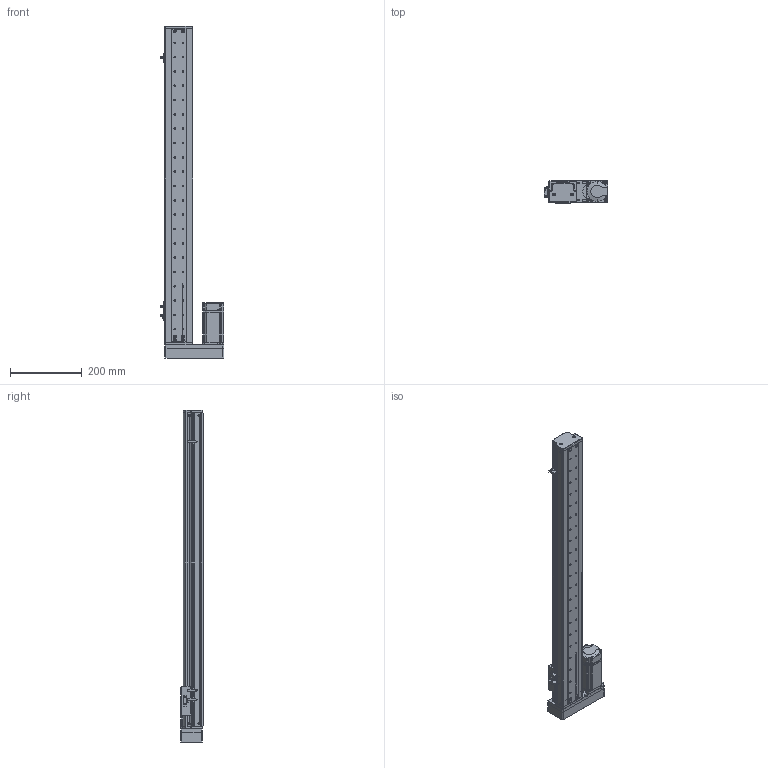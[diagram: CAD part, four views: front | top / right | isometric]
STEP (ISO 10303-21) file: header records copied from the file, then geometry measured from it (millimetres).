
FILE_DESCRIPTION (( 'STEP AP214' ), '1' );
FILE_NAME ('KSD75S-S720-ML-CM.STEP', '2019-10-18T07:04:50', ( '微软用户' ), ( '微软中国' ), 'SwSTEP 2.0', 'SolidWorks 2014', '' );
FILE_SCHEMA (( 'AUTOMOTIVE_DESIGN' ));
Length unit declared in the file: millimetre
Products named in the file (13): 75遵耀郪耜啣-720俴最; 75遵賑雄釱; MGW15H賑寢720; 720俴最; KSD75S-S720-ML-CM; MHMD042G1CA_2_03; 75宽模组保护罩左右折; 75宽马达安装板连板左右折丝杆; 覜茼え100遵圉猾敕; U倰嫖萇EEㄜSX672; 綴傷啣 ; ヶ傷啣; 75裔啣-720俴最
Assembly tree (15 placements, depth 3):
  KSD75S-S720-ML-CM
    MGW15H賑寢720
      720俴最
    75遵賑雄釱
    75遵耀郪耜啣-720俴最  x2
    75裔啣-720俴最
    ヶ傷啣
    綴傷啣 
    U倰嫖萇EEㄜSX672  x3
    覜茼え100遵圉猾敕
    75宽马达安装板连板左右折丝杆
    75宽模组保护罩左右折
    MHMD042G1CA_2_03
Bounding box: 178.7 x 63 x 927.5 mm (x, y, z)
Volume: 1132740 mm3; surface area: 714483.3 mm2
Topology: 13 solids, 14 shells, 1543 faces, 4330 edges, 2829 vertices
Faces by surface type: cylinder 755, plane 641, cone 129, bspline 18
Entity records: 49382 total; most frequent: CARTESIAN_POINT 9318, DIRECTION 7484, ORIENTED_EDGE 6940, EDGE_CURVE 3541, AXIS2_PLACEMENT_3D 2774, VERTEX_POINT 2347, VECTOR 1936, LINE 1936
